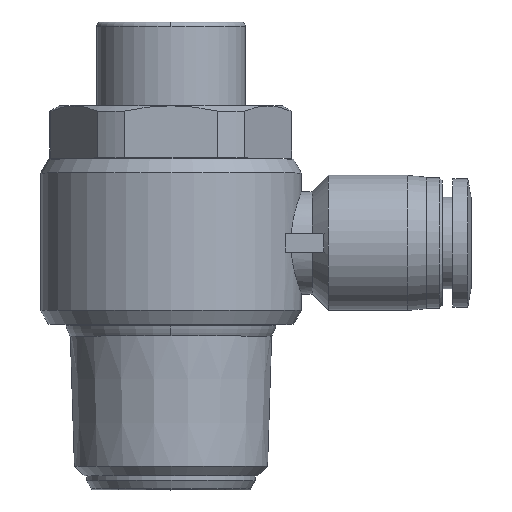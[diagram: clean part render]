
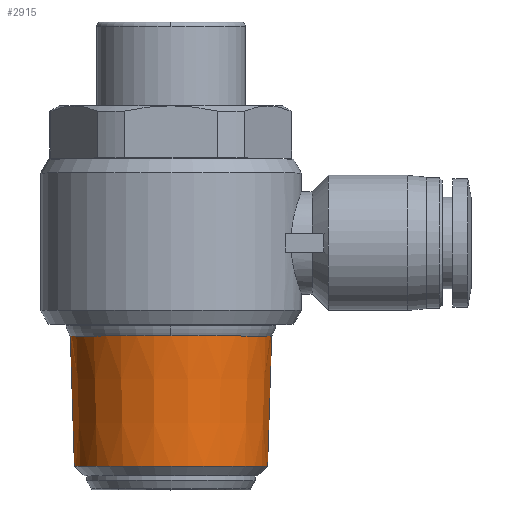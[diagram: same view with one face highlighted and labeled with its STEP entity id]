
A CAD part, top view. The second image highlights one B-rep face of the part: STEP entity #2915.
In plain terms, the highlighted conical face has half-angle 1.79 degrees and reference radius 10.582 mm.
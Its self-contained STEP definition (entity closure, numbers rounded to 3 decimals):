
#68 = DIRECTION ( 'NONE',  ( -1., 0., 0. ) ) ;
#155 = CIRCLE ( 'NONE', #3696, 10.363 ) ;
#189 = VECTOR ( 'NONE', #2822, 1000. ) ;
#442 = ORIENTED_EDGE ( 'NONE', *, *, #1861, .F. ) ;
#459 = CARTESIAN_POINT ( 'NONE',  ( 0., 9.516, 0. ) ) ;
#498 = CARTESIAN_POINT ( 'NONE',  ( 10.8, 16.5, 0. ) ) ;
#589 = CARTESIAN_POINT ( 'NONE',  ( 0., 2.532, 0. ) ) ;
#723 = EDGE_CURVE ( 'NONE', #2931, #3018, #3617, .T. ) ;
#955 = ORIENTED_EDGE ( 'NONE', *, *, #723, .T. ) ;
#1049 = VERTEX_POINT ( 'NONE', #3368 ) ;
#1156 = VERTEX_POINT ( 'NONE', #2193 ) ;
#1197 = DIRECTION ( 'NONE',  ( 0., 1., 0. ) ) ;
#1462 = AXIS2_PLACEMENT_3D ( 'NONE', #3814, #2536, #3168 ) ;
#1740 = EDGE_CURVE ( 'NONE', #1049, #2492, #3373, .T. ) ;
#1822 = CARTESIAN_POINT ( 'NONE',  ( 10.363, 2.532, 0. ) ) ;
#1836 = EDGE_CURVE ( 'NONE', #1156, #2931, #155, .T. ) ;
#1837 = DIRECTION ( 'NONE',  ( -1., 0., 0. ) ) ;
#1841 = CARTESIAN_POINT ( 'NONE',  ( 10.582, 9.516, 0. ) ) ;
#1861 = EDGE_CURVE ( 'NONE', #2492, #3018, #3594, .T. ) ;
#1885 = ORIENTED_EDGE ( 'NONE', *, *, #1836, .T. ) ;
#1956 = DIRECTION ( 'NONE',  ( 0., 1., 0. ) ) ;
#2092 = VECTOR ( 'NONE', #4031, 1000. ) ;
#2193 = CARTESIAN_POINT ( 'NONE',  ( -10.363, 2.532, 0. ) ) ;
#2201 = LINE ( 'NONE', #4072, #189 ) ;
#2392 = DIRECTION ( 'NONE',  ( 0., 1., 0. ) ) ;
#2492 = VERTEX_POINT ( 'NONE', #3402 ) ;
#2536 = DIRECTION ( 'NONE',  ( 0., 1., 0. ) ) ;
#2793 = ORIENTED_EDGE ( 'NONE', *, *, #3619, .F. ) ;
#2822 = DIRECTION ( 'NONE',  ( -0.031, 1., 0. ) ) ;
#2915 = ADVANCED_FACE ( 'NONE', ( #3326 ), #3319, .T. ) ;
#2931 = VERTEX_POINT ( 'NONE', #1822 ) ;
#3018 = VERTEX_POINT ( 'NONE', #498 ) ;
#3168 = DIRECTION ( 'NONE',  ( -1., 0., 0. ) ) ;
#3319 = CONICAL_SURFACE ( 'NONE', #3659, 10.582, 0.031 ) ;
#3326 = FACE_OUTER_BOUND ( 'NONE', #3849, .T. ) ;
#3368 = CARTESIAN_POINT ( 'NONE',  ( -10.8, 16.5, 0. ) ) ;
#3373 = CIRCLE ( 'NONE', #3434, 10.8 ) ;
#3402 = CARTESIAN_POINT ( 'NONE',  ( 0., 16.5, 10.8 ) ) ;
#3434 = AXIS2_PLACEMENT_3D ( 'NONE', #3653, #2392, #3965 ) ;
#3461 = ORIENTED_EDGE ( 'NONE', *, *, #1740, .F. ) ;
#3594 = CIRCLE ( 'NONE', #1462, 10.8 ) ;
#3617 = LINE ( 'NONE', #1841, #2092 ) ;
#3619 = EDGE_CURVE ( 'NONE', #1156, #1049, #2201, .T. ) ;
#3653 = CARTESIAN_POINT ( 'NONE',  ( 0., 16.5, 0. ) ) ;
#3659 = AXIS2_PLACEMENT_3D ( 'NONE', #459, #1956, #68 ) ;
#3696 = AXIS2_PLACEMENT_3D ( 'NONE', #589, #1197, #1837 ) ;
#3814 = CARTESIAN_POINT ( 'NONE',  ( 0., 16.5, 0. ) ) ;
#3849 = EDGE_LOOP ( 'NONE', ( #1885, #955, #442, #3461, #2793 ) ) ;
#3965 = DIRECTION ( 'NONE',  ( -1., 0., 0. ) ) ;
#4031 = DIRECTION ( 'NONE',  ( 0.031, 1., 0. ) ) ;
#4072 = CARTESIAN_POINT ( 'NONE',  ( -10.582, 9.516, 0. ) ) ;
